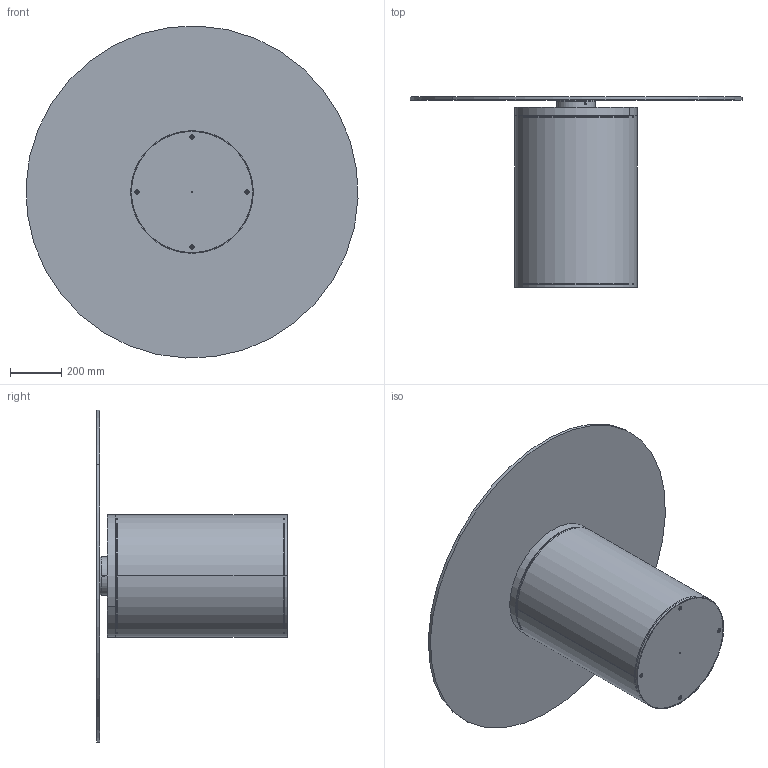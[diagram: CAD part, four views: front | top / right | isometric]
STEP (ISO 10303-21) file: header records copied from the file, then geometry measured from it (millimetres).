
FILE_DESCRIPTION (( 'STEP AP203' ), '1' );
FILE_NAME ('CI05G.STEP', '2024-08-08T06:49:19', ( '' ), ( '' ), 'SwSTEP 2.0', 'SolidWorks 2022', '' );
FILE_SCHEMA (( 'CONFIG_CONTROL_DESIGN' ));
Length unit declared in the file: millimetre
Products named in the file (15): M8xXXmm_hex_M8X55mm; Grano M6_M6x14; PIASTRE DOPPIE D.150 PER TRASPARENTE FEMMINA_Ø150; M8xXXmm_hex_M8X20mm; Grano M6_M6x8; C1XCRMXX-00-piani Rotondi Cristallo TRASPARENTE_C05 D.130cm; CXXCRXXD-01-Piani Rotondi in Cristallo CON DISCO_C05CR0CI PIANO CRISTALLO Ø130cm CILINDRO; CIB000000_01-00-struttura cilindro D.480mm; M8xXXmm_M8x10mm; CI05G; CIB000000_02-01-ZAVORRA IN FERRO D.480mm; PIASTRE DOPPIE D.150 PER TRASPARENTE MASCHIO_Ø150; CIB000000SPE-00-SPESSORE PER CILINDRO TRASPARENTE; CIB000000BAR-00-BARRA PER CILINDRO TRASPARENTE_Default<A macchina>; CIB000000-00-CILINDRO BASE D.480mm_SENZA PIASTRA
Assembly tree (23 placements, depth 3):
  CI05G
    CXXCRXXD-01-Piani Rotondi in Cristallo CON DISCO_C05CR0CI PIANO CRISTALLO Ø130cm CILINDRO
      C1XCRMXX-00-piani Rotondi Cristallo TRASPARENTE_C05 D.130cm
      PIASTRE DOPPIE D.150 PER TRASPARENTE MASCHIO_Ø150
    CIB000000-00-CILINDRO BASE D.480mm_SENZA PIASTRA
      CIB000000_01-00-struttura cilindro D.480mm
      CIB000000_02-01-ZAVORRA IN FERRO D.480mm
      M8xXXmm_hex_M8X20mm  x4
    CIB000000SPE-00-SPESSORE PER CILINDRO TRASPARENTE
    CIB000000BAR-00-BARRA PER CILINDRO TRASPARENTE_Default<A macchina>
    PIASTRE DOPPIE D.150 PER TRASPARENTE FEMMINA_Ø150
    M8xXXmm_hex_M8X55mm  x3
    M8xXXmm_M8x10mm  x4
    Grano M6_M6x8
    Grano M6_M6x14  x2
Bounding box: 1299.03 x 744 x 1299.03 mm (x, y, z)
Volume: 27323696.3 mm3; surface area: 5974443.7 mm2
Topology: 26 solids, 26 shells, 699 faces, 1570 edges, 912 vertices
Faces by surface type: plane 282, cylinder 240, cone 124, torus 30, sphere 14, bspline 9
Entity records: 16662 total; most frequent: CARTESIAN_POINT 5896, DIRECTION 1964, ORIENTED_EDGE 1782, EDGE_CURVE 891, AXIS2_PLACEMENT_3D 787, VERTEX_POINT 542, EDGE_LOOP 465, VECTOR 390
